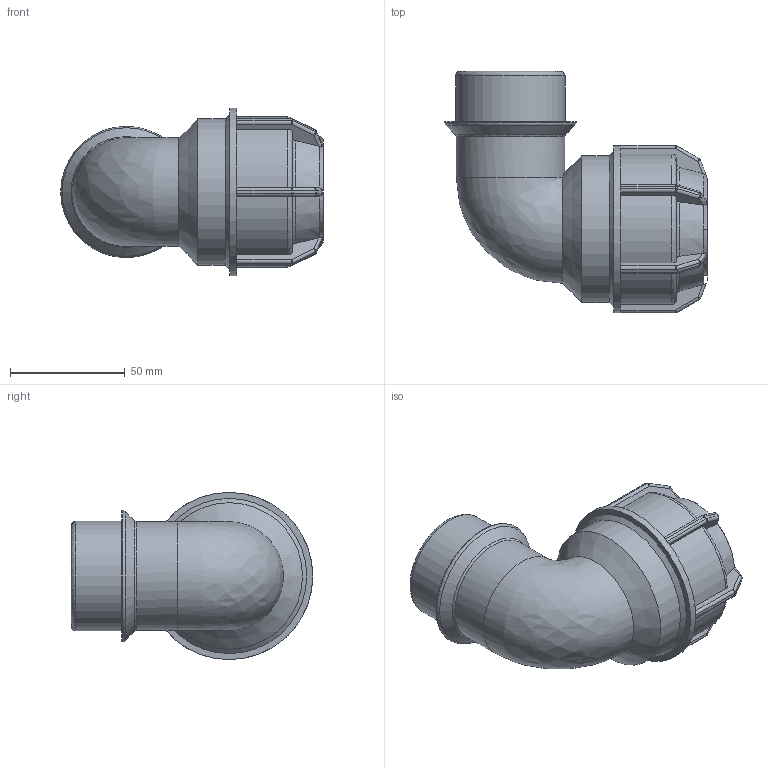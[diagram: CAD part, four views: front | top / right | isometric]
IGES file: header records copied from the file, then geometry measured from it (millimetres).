
Global section: file name: 148500040015.ipt; native system: Autodesk Inventor 2015; preprocessor: unknown; author: KIM; date: 20180409.131259; units: millimetre
Bounding box: 114.68 x 105.5 x 73 mm (x, y, z)
Volume: 179851.6 mm3; surface area: 49184.6 mm2
Topology: 1 solids, 1 shells, 213 faces, 513 edges, 299 vertices
Faces by surface type: plane 98, cylinder 59, sphere 24, revolution 22, cone 9, bspline 1
Full cylindrical faces by diameter (mm): 47.325 x1, 47.803 x1, 57.364 x1, 64 x1, 73 x1
